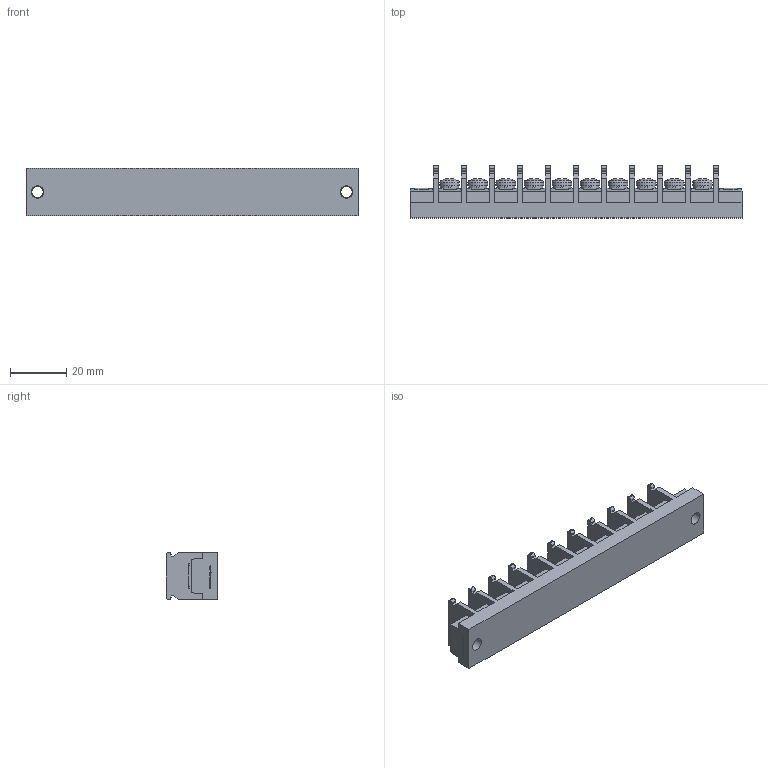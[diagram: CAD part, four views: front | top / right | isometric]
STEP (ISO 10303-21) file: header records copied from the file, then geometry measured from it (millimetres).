
FILE_DESCRIPTION(/* description */ ('Alibre Inc.'),/* implementation_level */ '2;1');
FILE_NAME(/* name */ 'export0',/* time_stamp */ '2015-10-14T19:56:01+09:00',/* author */ (''),/* organization */ (''),/* preprocessor_version */ 'ST-DEVELOPER v14',/* originating_system */ 'Alibre',/* authorisation */ '');
FILE_SCHEMA (('CONFIG_CONTROL_DESIGN'));
Length unit declared in the file: centimetre
Products named in the file (1): ID_1
Bounding box: 118.2 x 18.5 x 17 mm (x, y, z)
Volume: 21567.8 mm3; surface area: 12348.4 mm2
Topology: 1 solids, 17 shells, 1064 faces, 2928 edges, 1942 vertices
Faces by surface type: plane 788, bspline 104, cylinder 102, cone 40, torus 20, sphere 10
Full cylindrical faces by diameter (mm): 4 x12, 4.5 x2, 6.5 x10, 7 x10
Entity records: 32730 total; most frequent: CARTESIAN_POINT 7088, ORIENTED_EDGE 5708, DIRECTION 4204, EDGE_CURVE 2854, VECTOR 2064, LINE 2064, VERTEX_POINT 1912, AXIS2_PLACEMENT_3D 1464
